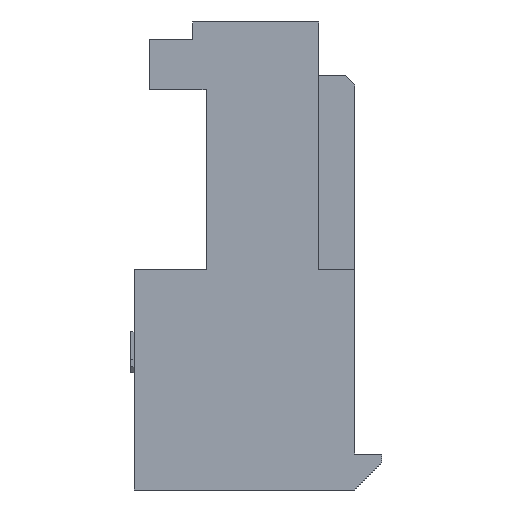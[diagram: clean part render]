
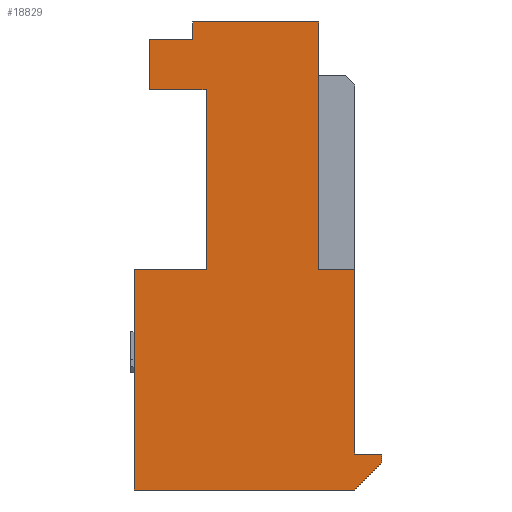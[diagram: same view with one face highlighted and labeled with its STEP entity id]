
A CAD part, left-side view. The second image highlights one B-rep face of the part: STEP entity #18829.
In plain terms, the highlighted planar face has unit normal (-1, 0, 0).
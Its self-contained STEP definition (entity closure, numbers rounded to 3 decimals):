
#72=DIRECTION('',(0.,0.,-1.));
#73=VECTOR('',#72,1.422);
#74=CARTESIAN_POINT('',(-17.78,2.921,-0.483));
#75=LINE('',#74,#73);
#76=DIRECTION('',(0.,1.,0.));
#77=VECTOR('',#76,1.219);
#78=CARTESIAN_POINT('',(-17.78,1.702,-0.483));
#79=LINE('',#78,#77);
#80=DIRECTION('',(0.,0.,-1.));
#81=VECTOR('',#80,0.483);
#82=CARTESIAN_POINT('',(-17.78,1.702,0.));
#83=LINE('',#82,#81);
#84=DIRECTION('',(0.,-1.,0.));
#85=VECTOR('',#84,1.016);
#86=CARTESIAN_POINT('',(-17.78,-1.854,-6.985));
#87=LINE('',#86,#85);
#88=DIRECTION('',(0.,0.,-1.));
#89=VECTOR('',#88,5.207);
#90=CARTESIAN_POINT('',(-17.78,-2.87,-6.985));
#91=LINE('',#90,#89);
#92=DIRECTION('',(0.,-1.,0.));
#93=VECTOR('',#92,0.762);
#94=CARTESIAN_POINT('',(-17.78,-2.87,-12.192));
#95=LINE('',#94,#93);
#96=DIRECTION('',(0.,0.,-1.));
#97=VECTOR('',#96,0.254);
#98=CARTESIAN_POINT('',(-17.78,-3.632,-12.192));
#99=LINE('',#98,#97);
#100=DIRECTION('',(0.,0.707,-0.707));
#101=VECTOR('',#100,1.078);
#102=CARTESIAN_POINT('',(-17.78,-3.632,-12.446));
#103=LINE('',#102,#101);
#104=DIRECTION('',(0.,1.,0.));
#105=VECTOR('',#104,6.223);
#106=CARTESIAN_POINT('',(-17.78,-2.87,-13.208));
#107=LINE('',#106,#105);
#108=DIRECTION('',(0.,0.,1.));
#109=VECTOR('',#108,6.223);
#110=CARTESIAN_POINT('',(-17.78,3.353,-13.208));
#111=LINE('',#110,#109);
#112=DIRECTION('',(0.,-1.,0.));
#113=VECTOR('',#112,2.032);
#114=CARTESIAN_POINT('',(-17.78,3.353,-6.985));
#115=LINE('',#114,#113);
#116=DIRECTION('',(0.,0.,1.));
#117=VECTOR('',#116,5.08);
#118=CARTESIAN_POINT('',(-17.78,1.321,-6.985));
#119=LINE('',#118,#117);
#128=DIRECTION('',(0.,-1.,0.));
#129=VECTOR('',#128,1.6);
#130=CARTESIAN_POINT('',(-17.78,2.921,-1.905));
#131=LINE('',#130,#129);
#420=DIRECTION('',(0.,1.,0.));
#421=VECTOR('',#420,3.556);
#422=CARTESIAN_POINT('',(-17.78,-1.854,0.));
#423=LINE('',#422,#421);
#1400=DIRECTION('',(0.,0.,1.));
#1401=VECTOR('',#1400,6.985);
#1402=CARTESIAN_POINT('',(-17.78,-1.854,-6.985));
#1403=LINE('',#1402,#1401);
#14208=CARTESIAN_POINT('',(-17.78,-1.854,0.));
#14210=VERTEX_POINT('',#14208);
#14212=CARTESIAN_POINT('',(-17.78,-2.87,-12.192));
#14213=CARTESIAN_POINT('',(-17.78,-3.632,-12.192));
#14214=VERTEX_POINT('',#14212);
#14215=VERTEX_POINT('',#14213);
#14216=CARTESIAN_POINT('',(-17.78,-3.632,-12.446));
#14217=VERTEX_POINT('',#14216);
#14218=CARTESIAN_POINT('',(-17.78,-2.87,-13.208));
#14219=VERTEX_POINT('',#14218);
#14220=CARTESIAN_POINT('',(-17.78,3.353,-13.208));
#14221=VERTEX_POINT('',#14220);
#14222=CARTESIAN_POINT('',(-17.78,3.353,-6.985));
#14223=VERTEX_POINT('',#14222);
#14224=CARTESIAN_POINT('',(-17.78,1.321,-6.985));
#14225=VERTEX_POINT('',#14224);
#14292=CARTESIAN_POINT('',(-17.78,1.321,-1.905));
#14293=VERTEX_POINT('',#14292);
#14418=CARTESIAN_POINT('',(-17.78,-1.854,-6.985));
#14419=CARTESIAN_POINT('',(-17.78,-2.87,-6.985));
#14420=VERTEX_POINT('',#14418);
#14421=VERTEX_POINT('',#14419);
#14682=CARTESIAN_POINT('',(-17.78,1.702,0.));
#14683=CARTESIAN_POINT('',(-17.78,1.702,-0.483));
#14684=VERTEX_POINT('',#14682);
#14685=VERTEX_POINT('',#14683);
#14686=CARTESIAN_POINT('',(-17.78,2.921,-0.483));
#14687=VERTEX_POINT('',#14686);
#14688=CARTESIAN_POINT('',(-17.78,2.921,-1.905));
#14689=VERTEX_POINT('',#14688);
#18792=CARTESIAN_POINT('',(-17.78,0.,0.));
#18793=DIRECTION('',(1.,0.,0.));
#18794=DIRECTION('',(0.,0.,-1.));
#18795=AXIS2_PLACEMENT_3D('',#18792,#18793,#18794);
#18796=PLANE('',#18795);
#18798=ORIENTED_EDGE('',*,*,#18797,.F.);
#18800=ORIENTED_EDGE('',*,*,#18799,.F.);
#18802=ORIENTED_EDGE('',*,*,#18801,.F.);
#18804=ORIENTED_EDGE('',*,*,#18803,.F.);
#18806=ORIENTED_EDGE('',*,*,#18805,.F.);
#18808=ORIENTED_EDGE('',*,*,#18807,.F.);
#18810=ORIENTED_EDGE('',*,*,#18809,.T.);
#18812=ORIENTED_EDGE('',*,*,#18811,.T.);
#18814=ORIENTED_EDGE('',*,*,#18813,.T.);
#18816=ORIENTED_EDGE('',*,*,#18815,.T.);
#18818=ORIENTED_EDGE('',*,*,#18817,.T.);
#18820=ORIENTED_EDGE('',*,*,#18819,.T.);
#18822=ORIENTED_EDGE('',*,*,#18821,.T.);
#18824=ORIENTED_EDGE('',*,*,#18823,.T.);
#18826=ORIENTED_EDGE('',*,*,#18825,.T.);
#18827=EDGE_LOOP('',(#18798,#18800,#18802,#18804,#18806,#18808,#18810,#18812,
#18814,#18816,#18818,#18820,#18822,#18824,#18826));
#18828=FACE_OUTER_BOUND('',#18827,.F.);
#18829=ADVANCED_FACE('',(#18828),#18796,.F.);
#18797=EDGE_CURVE('',#14689,#14293,#131,.T.);
#18799=EDGE_CURVE('',#14687,#14689,#75,.T.);
#18801=EDGE_CURVE('',#14685,#14687,#79,.T.);
#18803=EDGE_CURVE('',#14684,#14685,#83,.T.);
#18805=EDGE_CURVE('',#14210,#14684,#423,.T.);
#18807=EDGE_CURVE('',#14420,#14210,#1403,.T.);
#18809=EDGE_CURVE('',#14420,#14421,#87,.T.);
#18811=EDGE_CURVE('',#14421,#14214,#91,.T.);
#18813=EDGE_CURVE('',#14214,#14215,#95,.T.);
#18815=EDGE_CURVE('',#14215,#14217,#99,.T.);
#18817=EDGE_CURVE('',#14217,#14219,#103,.T.);
#18819=EDGE_CURVE('',#14219,#14221,#107,.T.);
#18821=EDGE_CURVE('',#14221,#14223,#111,.T.);
#18823=EDGE_CURVE('',#14223,#14225,#115,.T.);
#18825=EDGE_CURVE('',#14225,#14293,#119,.T.);
